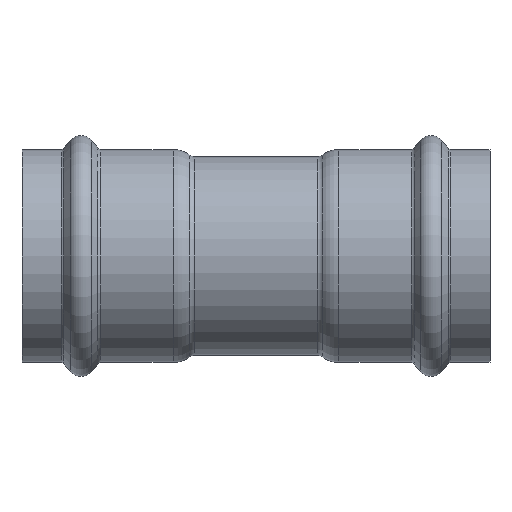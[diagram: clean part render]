
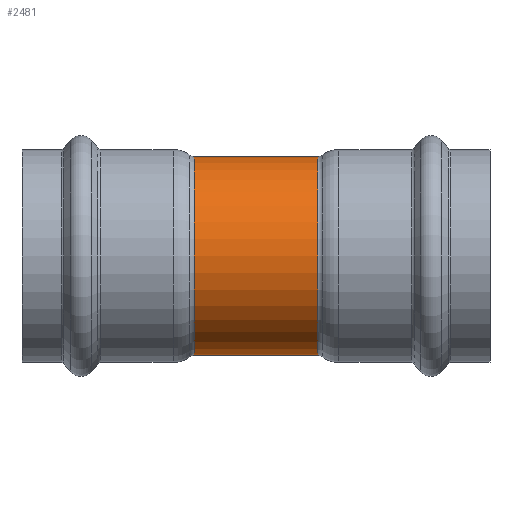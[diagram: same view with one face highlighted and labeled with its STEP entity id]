
A CAD part, front view. The second image highlights one B-rep face of the part: STEP entity #2481.
In plain terms, the highlighted cylindrical face has radius 27 mm (diameter 54 mm), a partial arc.
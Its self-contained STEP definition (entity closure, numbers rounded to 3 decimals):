
#10 = DIRECTION ( 'NONE',  ( -1., 0., 0. ) ) ;
#83 = CARTESIAN_POINT ( 'NONE',  ( -16.734, 0., -27. ) ) ;
#95 = VERTEX_POINT ( 'NONE', #83 ) ;
#116 = DIRECTION ( 'NONE',  ( -1., 0., 0. ) ) ;
#294 = CARTESIAN_POINT ( 'NONE',  ( -17.486, 0., 27. ) ) ;
#383 = VECTOR ( 'NONE', #1610, 1000. ) ;
#419 = DIRECTION ( 'NONE',  ( -1., 0., 0. ) ) ;
#541 = CARTESIAN_POINT ( 'NONE',  ( 16.734, 0., 27. ) ) ;
#641 = ORIENTED_EDGE ( 'NONE', *, *, #5315, .T. ) ;
#689 = DIRECTION ( 'NONE',  ( -1., 0., 0. ) ) ;
#773 = AXIS2_PLACEMENT_3D ( 'NONE', #824, #10, #2082 ) ;
#810 = CARTESIAN_POINT ( 'NONE',  ( -16.734, 0., 27. ) ) ;
#824 = CARTESIAN_POINT ( 'NONE',  ( -17.486, 0., 0. ) ) ;
#1179 = CARTESIAN_POINT ( 'NONE',  ( -17.486, 0., -27. ) ) ;
#1259 = CARTESIAN_POINT ( 'NONE',  ( 16.734, 0., -27. ) ) ;
#1598 = CIRCLE ( 'NONE', #4959, 27. ) ;
#1610 = DIRECTION ( 'NONE',  ( -1., 0., 0. ) ) ;
#1625 = ORIENTED_EDGE ( 'NONE', *, *, #2463, .F. ) ;
#2049 = VERTEX_POINT ( 'NONE', #1259 ) ;
#2082 = DIRECTION ( 'NONE',  ( 0., 0., 1. ) ) ;
#2264 = ORIENTED_EDGE ( 'NONE', *, *, #3592, .T. ) ;
#2316 = EDGE_CURVE ( 'NONE', #2049, #95, #2466, .T. ) ;
#2463 = EDGE_CURVE ( 'NONE', #95, #3021, #3061, .T. ) ;
#2466 = LINE ( 'NONE', #1179, #383 ) ;
#2481 = ADVANCED_FACE ( 'NONE', ( #4302 ), #4052, .T. ) ;
#2597 = CARTESIAN_POINT ( 'NONE',  ( 16.734, 0., 0. ) ) ;
#2903 = CARTESIAN_POINT ( 'NONE',  ( -16.734, 0., 0. ) ) ;
#3010 = LINE ( 'NONE', #294, #5126 ) ;
#3018 = DIRECTION ( 'NONE',  ( 0., 0., 1. ) ) ;
#3021 = VERTEX_POINT ( 'NONE', #810 ) ;
#3061 = CIRCLE ( 'NONE', #4812, 27. ) ;
#3140 = EDGE_LOOP ( 'NONE', ( #4828, #2264, #641, #1625 ) ) ;
#3332 = DIRECTION ( 'NONE',  ( 0., 0., 1. ) ) ;
#3592 = EDGE_CURVE ( 'NONE', #2049, #3642, #1598, .T. ) ;
#3642 = VERTEX_POINT ( 'NONE', #541 ) ;
#4052 = CYLINDRICAL_SURFACE ( 'NONE', #773, 27. ) ;
#4302 = FACE_OUTER_BOUND ( 'NONE', #3140, .T. ) ;
#4812 = AXIS2_PLACEMENT_3D ( 'NONE', #2903, #419, #3332 ) ;
#4828 = ORIENTED_EDGE ( 'NONE', *, *, #2316, .F. ) ;
#4959 = AXIS2_PLACEMENT_3D ( 'NONE', #2597, #116, #3018 ) ;
#5126 = VECTOR ( 'NONE', #689, 1000. ) ;
#5315 = EDGE_CURVE ( 'NONE', #3642, #3021, #3010, .T. ) ;
